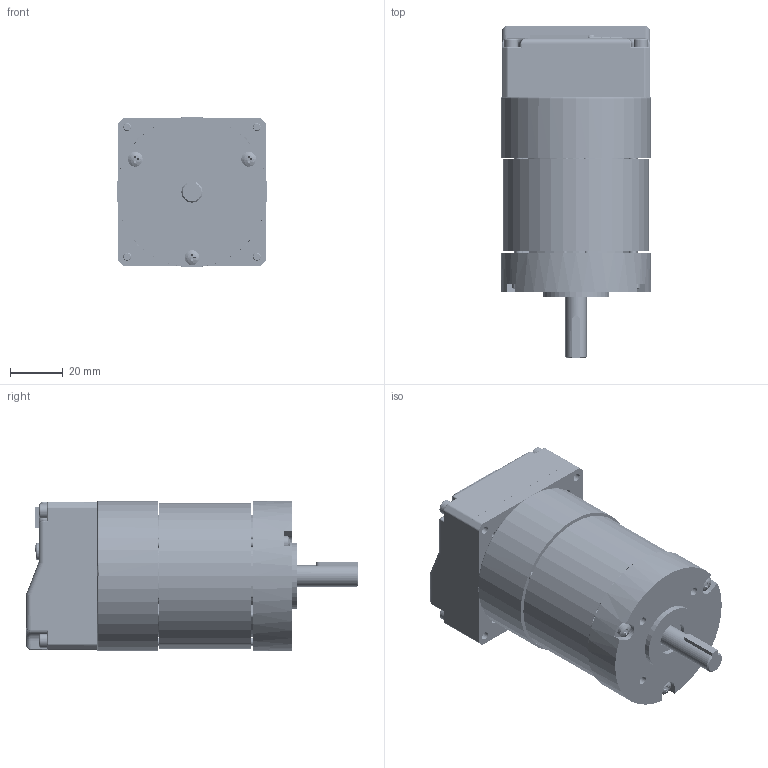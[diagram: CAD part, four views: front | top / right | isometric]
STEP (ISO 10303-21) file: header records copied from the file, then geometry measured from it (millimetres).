
FILE_DESCRIPTION((''),'2;1');
FILE_NAME('DM4D1_NEMA23_ASM','2021-01-27T10:56:14',('Matteo Maccalli'),(''),'CREO PARAMETRIC BY PTC INC, 2019344','CREO PARAMETRIC BY PTC INC, 2019344','');
FILE_SCHEMA(('AUTOMOTIVE_DESIGN { 1 0 10303 214 1 1 1 1 }'));
Products named in the file (81): CONTROFLANGIA_DM4D1; MC-01040; OPEN_CASCADE_STEP_TRANSLATOR_6_; BOARD_ASM; 878325122; CN6_ASM; USER_LIBRARY-LQFP64_GRID_0-6030; USER_LIBRARY-LQFP64_GRID_0-6795; LQFP64_GRID_0_5_ASM; IC403_ASM; _FTS-105-01-F-DV-P-TR_BODY; _FTS-105-01-F-DV-P-TR_PINS1; _FTS-105-01-F-DV-P-TR_PINS2; FTS-105-01-F-DV-P-TR_1_ASM_ASM; FTS-105-01-F-DV-P-TR_ASM; J402_ASM; LED_0805_1; LED400_ASM; LED_0805; LED401_ASM; PG-DSO-8-7_1; PG-DSO-8-7_2; PG-DSO-8-7_3; PG-DSO-8-7_4; PG-DSO-8-7_5; PG-DSO-8-7_6; PG-DSO-8-7_7; PG-DSO-8-7_8; PG-DSO-8-7_9; PG-DSO-8-7_10; PG-DSO-8-7_11; PG-DSO-8-7_12; PG-DSO-8-7_13; PG-DSO-8-7_14; PG-DSO-8-7_15; PG-DSO-8-7_16; PG-DSO-8-7_17; PG-DSO-8-7_18; PG-DSO-8-7_19; PG-DSO-8-7_20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
Assembly tree (151 placements, depth 8):
  DM4D1_NEMA23_ASM
    CONTROFLANGIA_DM4D1
    MC-01040
    ASM0003_ASM
      PCB_ASM
        BOARD_ASM
          OPEN_CASCADE_STEP_TRANSLATOR_6_
        CN6_ASM
          878325122
        IC403_ASM
          LQFP64_GRID_0_5_ASM
            USER_LIBRARY-LQFP64_GRID_0-6030
            USER_LIBRARY-LQFP64_GRID_0-6795  x64
        J402_ASM
          FTS-105-01-F-DV-P-TR_ASM
            FTS-105-01-F-DV-P-TR_1_ASM_ASM
              _FTS-105-01-F-DV-P-TR_BODY
              _FTS-105-01-F-DV-P-TR_PINS1
              _FTS-105-01-F-DV-P-TR_PINS2
        LED400_ASM
          LED_0805_1
        LED401_ASM
          LED_0805
        U700_ASM
          PG-DSO-8-7_ASM
            PG-DSO-8-7_1
            PG-DSO-8-7_2
            PG-DSO-8-7_3
            PG-DSO-8-7_4
            PG-DSO-8-7_5
            PG-DSO-8-7_6
            PG-DSO-8-7_7
            PG-DSO-8-7_8
            PG-DSO-8-7_9
            PG-DSO-8-7_10
            PG-DSO-8-7_11
            PG-DSO-8-7_12
            PG-DSO-8-7_13
            PG-DSO-8-7_14
            PG-DSO-8-7_15
            PG-DSO-8-7_16
            PG-DSO-8-7_17
            PG-DSO-8-7_18
            PG-DSO-8-7_19
            PG-DSO-8-7_20
            PG-DSO-8-7_21
            PG-DSO-8-7_22
            PG-DSO-8-7_23
            PG-DSO-8-7_24
        W600_ASM
          6859060736_ASM
            EXTRUDED
        CE200_ASM
          SCE-D8_ASM
            SCE-D8_1
            SCE-D8_2
            SCE-D8_3
            SCE-D8_4
            SCE-D8_5
        CN1_ASM
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Bounding box: 57 x 125.6 x 57 mm (x, y, z)
Volume: 32624.8 mm3; surface area: 99137.4 mm2
Topology: 125 solids, 934 shells, 8773 faces, 25072 edges, 16894 vertices
Faces by surface type: cylinder 4002, plane 3503, torus 599, sphere 594, cone 49, bspline 23, extrusion 3
Entity records: 224980 total; most frequent: CARTESIAN_POINT 41743, DIRECTION 33813, ORIENTED_EDGE 27027, EDGE_CURVE 17452, VERTEX_POINT 12997, VECTOR 11579, LINE 11576, AXIS2_PLACEMENT_3D 11117
